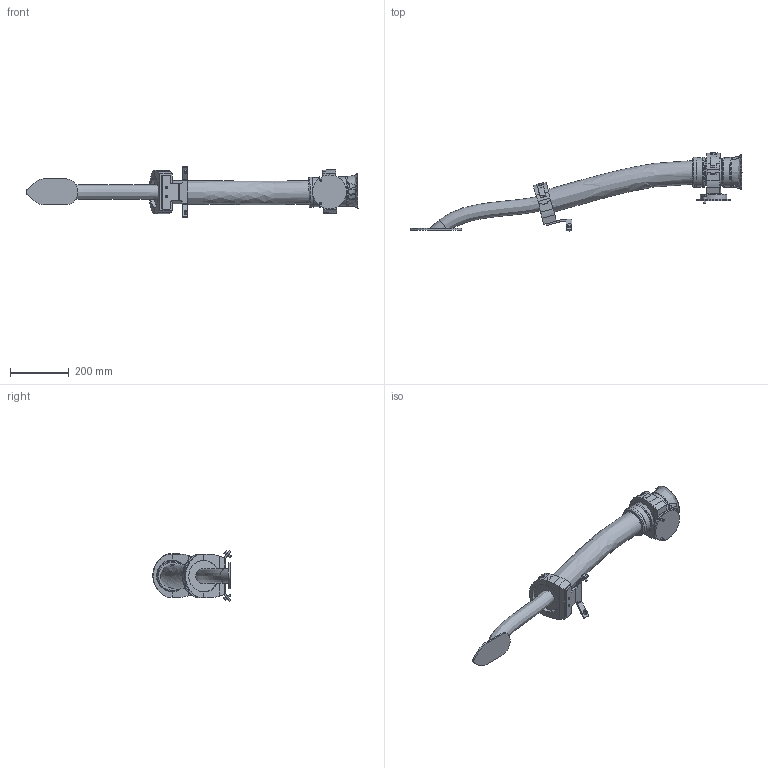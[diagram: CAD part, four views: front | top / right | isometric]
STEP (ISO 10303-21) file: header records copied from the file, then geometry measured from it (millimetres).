
FILE_DESCRIPTION (( 'STEP AP214' ), '1' );
FILE_NAME ('IRB6740-LID_230kg-300_OC_00_LINK04_CABLE.step', '2026-05-07T13:21:15', ( '' ), ( '' ), 'SwSTEP 2.0', 'SolidWorks 2024', '' );
FILE_SCHEMA (( 'AUTOMOTIVE_DESIGN' ));
Length unit declared in the file: millimetre
Products named in the file (1): IRB6740-LID_230kg-300_OC_00_LINK04_CABLE
Bounding box: 1129.61 x 265.93 x 174.65 mm (x, y, z)
Volume: 5806038.2 mm3; surface area: 438540.9 mm2
Topology: 1 solids, 1 shells, 355 faces, 895 edges, 580 vertices
Faces by surface type: plane 221, cylinder 97, bspline 19, cone 11, torus 5, sphere 2
Full cylindrical faces by diameter (mm): 6.8 x2, 7 x4, 10.22 x8, 13 x4, 51 x1, 100 x2, 103 x4, 107.199 x4, 115 x1
Entity records: 18732 total; most frequent: CARTESIAN_POINT 6856, ORIENTED_EDGE 1624, DIRECTION 1578, EDGE_CURVE 812, AXIS2_PLACEMENT_3D 568, VERTEX_POINT 546, EDGE_LOOP 454, VECTOR 442
